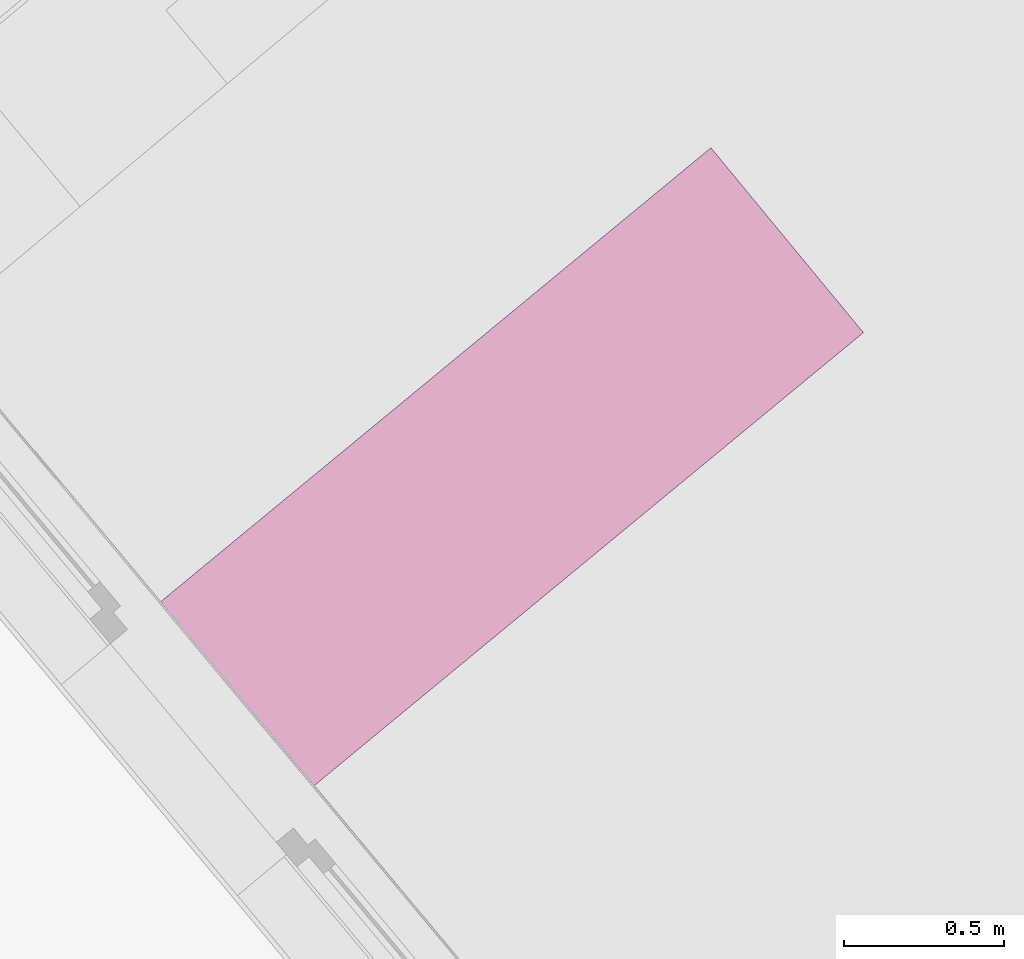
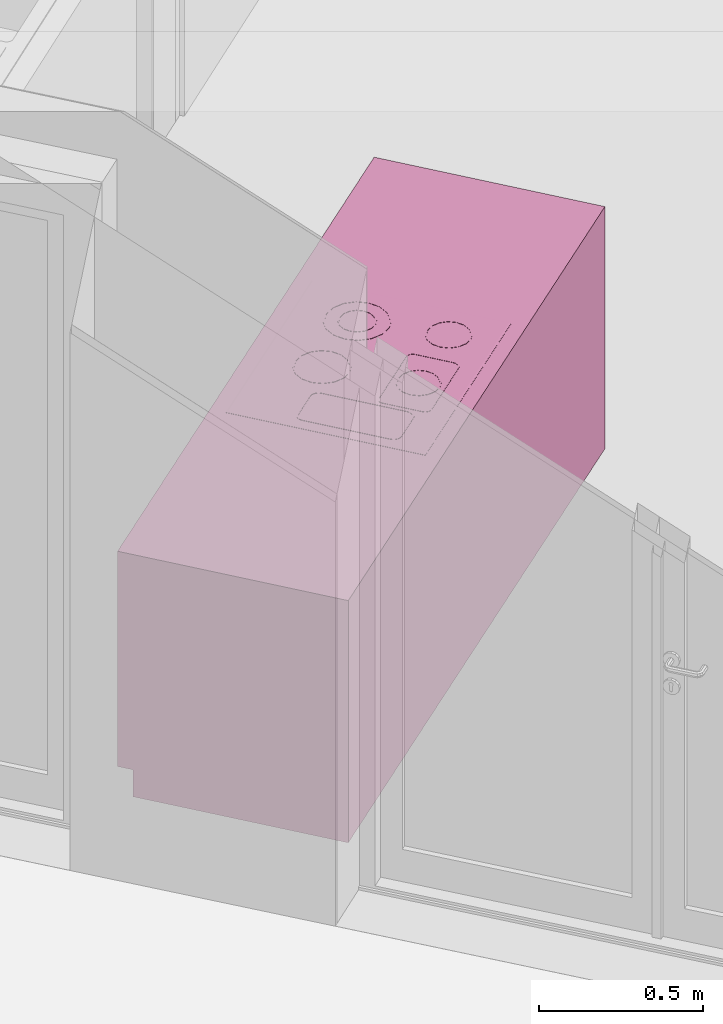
# One storey, part 63 of 67: 1 furniture element.
"""IFC4 building model written with IfcOpenShell, lengths in metres."""

from ifc_helpers import new_model, entity, si_unit, converted_unit, derived_unit, direction, frame, origin_with_axes, place, context, subcontext, project, spatial, polygons, source, transform, mapped, type_object, element, save


model = new_model("IFC4")

# Units and contexts
model_context = context("Model", 3, precision=1e-05, world=origin_with_axes(), true_north=direction((0.0, 1.0)))
body_context = subcontext(model_context, "Body", "Model", "MODEL_VIEW")
ifc_project = project(units=[si_unit("LENGTHUNIT", "METRE"), si_unit("AREAUNIT", "SQUARE_METRE"), si_unit("VOLUMEUNIT", "CUBIC_METRE"), converted_unit("PLANEANGLEUNIT", "DEGREE", entity("IfcPlaneAngleMeasure", 0.0174532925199), si_unit("PLANEANGLEUNIT", "RADIAN"), dimensions=[0, 0, 0, 0, 0, 0, 0]), converted_unit("TIMEUNIT", "Year", entity("IfcTimeMeasure", 31556926.0), si_unit("TIMEUNIT", "SECOND"), dimensions=[0, 0, 1, 0, 0, 0, 0]), si_unit("MASSUNIT", "GRAM", prefix="KILO"), si_unit("THERMODYNAMICTEMPERATUREUNIT", "DEGREE_CELSIUS"), si_unit("LUMINOUSINTENSITYUNIT", "LUMEN"), si_unit("ENERGYUNIT", "JOULE", prefix="MEGA"), derived_unit("THERMALCONDUCTANCEUNIT", [(si_unit("POWERUNIT", "WATT"), 1), (si_unit("LENGTHUNIT", "METRE"), -1), (si_unit("THERMODYNAMICTEMPERATUREUNIT", "KELVIN"), -1)]), derived_unit("SPECIFICHEATCAPACITYUNIT", [(si_unit("ENERGYUNIT", "JOULE"), 1), (si_unit("MASSUNIT", "GRAM", prefix="KILO"), -1), (si_unit("THERMODYNAMICTEMPERATUREUNIT", "KELVIN"), -1)]), derived_unit("MASSDENSITYUNIT", [(si_unit("MASSUNIT", "GRAM", prefix="KILO"), 1), (si_unit("VOLUMEUNIT", "CUBIC_METRE"), -1)])], contexts=[model_context])

# Site, building, storey
site_placement = place(None, frame((-0.00153261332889, -0.00661245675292, 0.0), z_axis=(0.0, 0.0, 1.0), x_axis=(1.0, 0.0, 0.0)))
site = spatial("IfcSite", under=ifc_project, at=site_placement, Name="Site", CompositionType="ELEMENT")
building_placement = place(site_placement, origin_with_axes())
building = spatial("IfcBuilding", under=site, at=building_placement, Name="Building", CompositionType="ELEMENT")
storey_placement = place(building_placement, frame((0.0, 0.0, -0.22), z_axis=(0.0, 0.0, 1.0), x_axis=(1.0, 0.0, 0.0)))
storey = spatial("IfcBuildingStorey", under=building, at=storey_placement, Name="EG", CompositionType="ELEMENT", Elevation=-0.22)

# Furniture
furniture_type = type_object("IfcFurnitureType", Name="Konzeptküche 26", AssemblyPlace="NOTDEFINED", PredefinedType="NOTDEFINED")
shared_shape = source(origin_with_axes(), body_context, "Body", "Tessellation", [
    polygons([(0.451386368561, 0.0111886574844, 0.0), (2.6840690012, -0.00300580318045, 0.0), (2.6840690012, -0.00300580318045, 0.1), (0.451386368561, 0.0111886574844, 0.1), (0.455836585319, 0.711174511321, 0.0), (2.68851921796, 0.696980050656, 0.0), (2.68851921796, 0.696980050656, 0.1), (0.455836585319, 0.711174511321, 0.1)], [[[1, 2, 3, 4]], [[1, 5, 6, 2]], [[2, 6, 7, 3]], [[4, 3, 7, 8]], [[5, 1, 4, 8]], [[6, 5, 8, 7]]], closed=True),
    polygons([(0.451386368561, 0.0111886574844, 0.85), (2.6840690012, -0.00300580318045, 0.85), (2.6840690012, -0.00300580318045, 0.9), (0.451386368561, 0.0111886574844, 0.9), (0.456154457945, 0.76117350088, 0.85), (2.68883709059, 0.746979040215, 0.85), (2.68883709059, 0.746979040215, 0.9), (0.456154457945, 0.76117350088, 0.9)], [[[1, 2, 3, 4]], [[1, 5, 6, 2]], [[2, 6, 7, 3]], [[4, 3, 7, 8]], [[5, 1, 4, 8]], [[6, 5, 8, 7]]], closed=True),
    polygons([(0.451386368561, 0.0111886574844, 0.1), (2.6840690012, -0.00300580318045, 0.1), (2.6840690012, -0.00300580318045, 0.85), (0.451386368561, 0.0111886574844, 0.85), (0.456154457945, 0.76117350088, 0.1), (2.68883709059, 0.746979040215, 0.1), (2.68883709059, 0.746979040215, 0.85), (0.456154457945, 0.76117350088, 0.85)], [[[1, 2, 3, 4]], [[1, 5, 6, 2]], [[2, 6, 7, 3]], [[4, 3, 7, 8]], [[5, 1, 4, 8]], [[6, 5, 8, 7]]], closed=True),
    polygons([(2.01007115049, 0.701293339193, 0.9), (2.00593880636, 0.0513064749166, 0.9), (1.25595396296, 0.0560745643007, 0.9), (1.26008630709, 0.706061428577, 0.9), (2.01007115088, 0.70129333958, 0.9008), (2.00593880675, 0.0513064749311, 0.9008), (1.25595396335, 0.0560745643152, 0.9008), (1.26008630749, 0.706061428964, 0.9008), (2.00322248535, 0.694531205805, 0.901999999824), (1.99917667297, 0.0581551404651, 0.901999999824), (1.26280262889, 0.0628366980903, 0.901999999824), (1.26684844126, 0.69921276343, 0.901999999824)], [[[1, 2, 3, 4]], [[2, 1, 5, 6]], [[3, 2, 6, 7]], [[4, 3, 7, 8]], [[1, 4, 8, 5]], [[6, 5, 9, 10]], [[7, 6, 10, 11]], [[8, 7, 11, 12]], [[5, 8, 12, 9]], [[11, 10, 9, 12]]], closed=True),
    polygons([(1.95268579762, 0.208298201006, 0.902), (1.94734355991, 0.236077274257, 0.902), (1.94734355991, 0.236077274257, 0.903), (1.95268579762, 0.208298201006, 0.903), (1.9469907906, 0.180589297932, 0.902), (1.93112555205, 0.157168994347, 0.902), (1.9075054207, 0.141602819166, 0.902), (1.87972634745, 0.136260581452, 0.902), (1.85201744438, 0.141955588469, 0.902), (1.82859714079, 0.157820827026, 0.902), (1.81303096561, 0.181440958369, 0.902), (1.8076887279, 0.20922003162, 0.902), (1.81338373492, 0.236928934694, 0.902), (1.82924897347, 0.260349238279, 0.902), (1.85286910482, 0.275915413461, 0.902), (1.88064817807, 0.281257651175, 0.902), (1.90835708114, 0.275562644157, 0.902), (1.93177738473, 0.259697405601, 0.902), (1.94768589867, 0.208329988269, 0.902), (1.94271209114, 0.234193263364, 0.902), (1.92821944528, 0.256184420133, 0.902), (1.90641433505, 0.270955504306, 0.902), (1.8806163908, 0.276257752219, 0.902), (1.85475311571, 0.271283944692, 0.902), (1.83276195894, 0.256791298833, 0.902), (1.81799087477, 0.234986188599, 0.902), (1.81268862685, 0.209188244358, 0.902), (1.81766243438, 0.183324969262, 0.902), (1.83215508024, 0.161333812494, 0.902), (1.85396019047, 0.146562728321, 0.902), (1.87975813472, 0.141260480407, 0.902), (1.90562140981, 0.146234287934, 0.902), (1.92761256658, 0.160726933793, 0.902), (1.94238365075, 0.182532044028, 0.902), (1.93177738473, 0.259697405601, 0.903), (1.90835708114, 0.275562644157, 0.903), (1.88064817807, 0.281257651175, 0.903), (1.85286910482, 0.275915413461, 0.903), (1.82924897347, 0.260349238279, 0.903), (1.81338373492, 0.236928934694, 0.903), (1.8076887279, 0.20922003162, 0.903), (1.81303096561, 0.181440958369, 0.903), (1.82859714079, 0.157820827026, 0.903), (1.85201744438, 0.141955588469, 0.903), (1.87972634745, 0.136260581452, 0.903), (1.9075054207, 0.141602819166, 0.903), (1.93112555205, 0.157168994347, 0.903), (1.9469907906, 0.180589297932, 0.903), (1.94768589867, 0.208329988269, 0.903), (1.94238365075, 0.182532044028, 0.903), (1.92761256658, 0.160726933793, 0.903), (1.90562140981, 0.146234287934, 0.903), (1.87975813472, 0.141260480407, 0.903), (1.85396019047, 0.146562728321, 0.903), (1.83215508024, 0.161333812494, 0.903), (1.81766243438, 0.183324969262, 0.903), (1.81268862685, 0.209188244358, 0.903), (1.81799087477, 0.234986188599, 0.903), (1.83276195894, 0.256791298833, 0.903), (1.85475311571, 0.271283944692, 0.903), (1.8806163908, 0.276257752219, 0.903), (1.90641433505, 0.270955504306, 0.903), (1.92821944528, 0.256184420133, 0.903), (1.94271209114, 0.234193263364, 0.903)], [[[1, 2, 3, 4]], [[1, 5, 6, 7, 8, 9, 10, 11, 12, 13, 14, 15, 16, 17, 18, 2], [19, 20, 21, 22, 23, 24, 25, 26, 27, 28, 29, 30, 31, 32, 33, 34]], [[2, 18, 35, 3]], [[4, 3, 35, 36, 37, 38, 39, 40, 41, 42, 43, 44, 45, 46, 47, 48], [49, 50, 51, 52, 53, 54, 55, 56, 57, 58, 59, 60, 61, 62, 63, 64]], [[5, 1, 4, 48]], [[6, 5, 48, 47]], [[7, 6, 47, 46]], [[8, 7, 46, 45]], [[9, 8, 45, 44]], [[10, 9, 44, 43]], [[11, 10, 43, 42]], [[12, 11, 42, 41]], [[13, 12, 41, 40]], [[14, 13, 40, 39]], [[15, 14, 39, 38]], [[16, 15, 38, 37]], [[17, 16, 37, 36]], [[18, 17, 36, 35]], [[20, 19, 49, 64]], [[21, 20, 64, 63]], [[22, 21, 63, 62]], [[23, 22, 62, 61]], [[24, 23, 61, 60]], [[25, 24, 60, 59]], [[26, 25, 59, 58]], [[27, 26, 58, 57]], [[28, 27, 57, 56]], [[29, 28, 56, 55]], [[30, 29, 55, 54]], [[31, 30, 54, 53]], [[32, 31, 53, 52]], [[33, 32, 52, 51]], [[34, 33, 51, 50]], [[19, 34, 50, 49]]], closed=True),
    polygons([(1.9127590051, 0.495207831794, 0.902), (1.90833784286, 0.518197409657, 0.902), (1.90833784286, 0.518197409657, 0.903), (1.9127590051, 0.495207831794, 0.903), (1.90804589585, 0.472276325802, 0.902), (1.89491604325, 0.452894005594, 0.902), (1.87536834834, 0.44001165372, 0.902), (1.85237877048, 0.435590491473, 0.902), (1.82944726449, 0.440303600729, 0.902), (1.81006494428, 0.453433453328, 0.902), (1.7971825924, 0.472981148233, 0.902), (1.79276143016, 0.495970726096, 0.902), (1.79747453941, 0.518902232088, 0.902), (1.81060439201, 0.538284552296, 0.902), (1.83015208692, 0.551166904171, 0.902), (1.85314166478, 0.555588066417, 0.902), (1.87607317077, 0.550874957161, 0.902), (1.89545549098, 0.537745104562, 0.902), (1.90775910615, 0.495239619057, 0.902), (1.90370637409, 0.516313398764, 0.902), (1.89189755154, 0.534232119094, 0.902), (1.87413042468, 0.546267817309, 0.902), (1.85310987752, 0.550588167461, 0.902), (1.83203609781, 0.546535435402, 0.902), (1.81411737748, 0.53472661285, 0.902), (1.80208167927, 0.516959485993, 0.902), (1.79776132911, 0.495938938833, 0.902), (1.80181406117, 0.474865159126, 0.902), (1.81362288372, 0.456946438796, 0.902), (1.83139001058, 0.444910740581, 0.902), (1.85241055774, 0.440590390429, 0.902), (1.87348433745, 0.444643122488, 0.902), (1.89140305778, 0.45645194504, 0.902), (1.90343875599, 0.474219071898, 0.902), (1.89545549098, 0.537745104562, 0.903), (1.87607317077, 0.550874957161, 0.903), (1.85314166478, 0.555588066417, 0.903), (1.83015208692, 0.551166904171, 0.903), (1.81060439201, 0.538284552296, 0.903), (1.79747453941, 0.518902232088, 0.903), (1.79276143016, 0.495970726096, 0.903), (1.7971825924, 0.472981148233, 0.903), (1.81006494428, 0.453433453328, 0.903), (1.82944726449, 0.440303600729, 0.903), (1.85237877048, 0.435590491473, 0.903), (1.87536834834, 0.44001165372, 0.903), (1.89491604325, 0.452894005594, 0.903), (1.90804589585, 0.472276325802, 0.903), (1.90775910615, 0.495239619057, 0.903), (1.90343875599, 0.474219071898, 0.903), (1.89140305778, 0.45645194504, 0.903), (1.87348433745, 0.444643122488, 0.903), (1.85241055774, 0.440590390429, 0.903), (1.83139001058, 0.444910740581, 0.903), (1.81362288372, 0.456946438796, 0.903), (1.80181406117, 0.474865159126, 0.903), (1.79776132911, 0.495938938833, 0.903), (1.80208167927, 0.516959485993, 0.903), (1.81411737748, 0.53472661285, 0.903), (1.83203609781, 0.546535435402, 0.903), (1.85310987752, 0.550588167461, 0.903), (1.87413042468, 0.546267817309, 0.903), (1.89189755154, 0.534232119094, 0.903), (1.90370637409, 0.516313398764, 0.903)], [[[1, 2, 3, 4]], [[1, 5, 6, 7, 8, 9, 10, 11, 12, 13, 14, 15, 16, 17, 18, 2], [19, 20, 21, 22, 23, 24, 25, 26, 27, 28, 29, 30, 31, 32, 33, 34]], [[2, 18, 35, 3]], [[4, 3, 35, 36, 37, 38, 39, 40, 41, 42, 43, 44, 45, 46, 47, 48], [49, 50, 51, 52, 53, 54, 55, 56, 57, 58, 59, 60, 61, 62, 63, 64]], [[5, 1, 4, 48]], [[6, 5, 48, 47]], [[7, 6, 47, 46]], [[8, 7, 46, 45]], [[9, 8, 45, 44]], [[10, 9, 44, 43]], [[11, 10, 43, 42]], [[12, 11, 42, 41]], [[13, 12, 41, 40]], [[14, 13, 40, 39]], [[15, 14, 39, 38]], [[16, 15, 38, 37]], [[17, 16, 37, 36]], [[18, 17, 36, 35]], [[20, 19, 49, 64]], [[21, 20, 64, 63]], [[22, 21, 63, 62]], [[23, 22, 62, 61]], [[24, 23, 61, 60]], [[25, 24, 60, 59]], [[26, 25, 59, 58]], [[27, 26, 58, 57]], [[28, 27, 57, 56]], [[29, 28, 56, 55]], [[30, 29, 55, 54]], [[31, 30, 54, 53]], [[32, 31, 53, 52]], [[33, 32, 52, 51]], [[34, 33, 51, 50]], [[19, 34, 50, 49]]], closed=True),
    polygons([(1.95775809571, 0.494921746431, 0.902), (1.95002106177, 0.535153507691, 0.902), (1.95002106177, 0.535153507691, 0.903), (1.95775809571, 0.494921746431, 0.903), (1.94951015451, 0.454791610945, 0.902), (1.92653291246, 0.420872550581, 0.902), (1.89232444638, 0.3983284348, 0.902), (1.85209268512, 0.39059140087, 0.902), (1.81196254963, 0.398839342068, 0.902), (1.77804348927, 0.421816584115, 0.902), (1.75549937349, 0.456025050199, 0.902), (1.74776233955, 0.496256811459, 0.902), (1.75601028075, 0.536386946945, 0.902), (1.7789875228, 0.57030600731, 0.902), (1.81319598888, 0.59285012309, 0.902), (1.85342775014, 0.60058715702, 0.902), (1.89355788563, 0.592339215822, 0.902), (1.92747694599, 0.569361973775, 0.902), (1.95275819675, 0.494953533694, 0.902), (1.94538959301, 0.533269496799, 0.902), (1.92391900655, 0.565848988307, 0.902), (1.89161513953, 0.587732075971, 0.902), (1.85339596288, 0.595587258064, 0.902), (1.81507999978, 0.588218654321, 0.902), (1.78250050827, 0.566748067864, 0.902), (1.7606174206, 0.53444420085, 0.902), (1.75276223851, 0.496225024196, 0.902), (1.76013084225, 0.457909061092, 0.902), (1.78160142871, 0.425329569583, 0.902), (1.81390529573, 0.403446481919, 0.902), (1.85212447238, 0.395591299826, 0.902), (1.89044043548, 0.402959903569, 0.902), (1.92301992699, 0.424430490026, 0.902), (1.94490301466, 0.456734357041, 0.902), (1.92747694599, 0.569361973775, 0.903), (1.89355788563, 0.592339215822, 0.903), (1.85342775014, 0.60058715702, 0.903), (1.81319598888, 0.59285012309, 0.903), (1.7789875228, 0.57030600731, 0.903), (1.75601028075, 0.536386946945, 0.903), (1.74776233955, 0.496256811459, 0.903), (1.75549937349, 0.456025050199, 0.903), (1.77804348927, 0.421816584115, 0.903), (1.81196254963, 0.398839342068, 0.903), (1.85209268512, 0.39059140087, 0.903), (1.89232444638, 0.3983284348, 0.903), (1.92653291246, 0.420872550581, 0.903), (1.94951015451, 0.454791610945, 0.903), (1.95275819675, 0.494953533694, 0.903), (1.94490301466, 0.456734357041, 0.903), (1.92301992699, 0.424430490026, 0.903), (1.89044043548, 0.402959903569, 0.903), (1.85212447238, 0.395591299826, 0.903), (1.81390529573, 0.403446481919, 0.903), (1.78160142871, 0.425329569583, 0.903), (1.76013084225, 0.457909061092, 0.903), (1.75276223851, 0.496225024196, 0.903), (1.7606174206, 0.53444420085, 0.903), (1.78250050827, 0.566748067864, 0.903), (1.81507999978, 0.588218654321, 0.903), (1.85339596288, 0.595587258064, 0.903), (1.89161513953, 0.587732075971, 0.903), (1.92391900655, 0.565848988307, 0.903), (1.94538959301, 0.533269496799, 0.903)], [[[1, 2, 3, 4]], [[1, 5, 6, 7, 8, 9, 10, 11, 12, 13, 14, 15, 16, 17, 18, 2], [19, 20, 21, 22, 23, 24, 25, 26, 27, 28, 29, 30, 31, 32, 33, 34]], [[2, 18, 35, 3]], [[4, 3, 35, 36, 37, 38, 39, 40, 41, 42, 43, 44, 45, 46, 47, 48], [49, 50, 51, 52, 53, 54, 55, 56, 57, 58, 59, 60, 61, 62, 63, 64]], [[5, 1, 4, 48]], [[6, 5, 48, 47]], [[7, 6, 47, 46]], [[8, 7, 46, 45]], [[9, 8, 45, 44]], [[10, 9, 44, 43]], [[11, 10, 43, 42]], [[12, 11, 42, 41]], [[13, 12, 41, 40]], [[14, 13, 40, 39]], [[15, 14, 39, 38]], [[16, 15, 38, 37]], [[17, 16, 37, 36]], [[18, 17, 36, 35]], [[20, 19, 49, 64]], [[21, 20, 64, 63]], [[22, 21, 63, 62]], [[23, 22, 62, 61]], [[24, 23, 61, 60]], [[25, 24, 60, 59]], [[26, 25, 59, 58]], [[27, 26, 58, 57]], [[28, 27, 57, 56]], [[29, 28, 56, 55]], [[30, 29, 55, 54]], [[31, 30, 54, 53]], [[32, 31, 53, 52]], [[33, 32, 52, 51]], [[34, 33, 51, 50]], [[19, 34, 50, 49]]], closed=True),
    polygons([(1.67867067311, 0.206790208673, 0.902), (1.67351265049, 0.233611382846, 0.902), (1.67351265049, 0.233611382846, 0.903), (1.67867067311, 0.206790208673, 0.903), (1.67317204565, 0.180036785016, 0.902), (1.65785388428, 0.157424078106, 0.902), (1.63504824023, 0.142394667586, 0.902), (1.60822706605, 0.137236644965, 0.902), (1.5814736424, 0.142735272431, 0.902), (1.55886093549, 0.158053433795, 0.902), (1.54383152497, 0.180859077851, 0.902), (1.53867350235, 0.207680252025, 0.902), (1.54417212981, 0.234433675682, 0.902), (1.55949029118, 0.257046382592, 0.902), (1.58229593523, 0.272075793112, 0.902), (1.60911710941, 0.277233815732, 0.902), (1.63587053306, 0.271735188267, 0.902), (1.65848323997, 0.256417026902, 0.902), (1.67367077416, 0.206821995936, 0.902), (1.66888118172, 0.231727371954, 0.902), (1.65492530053, 0.252904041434, 0.902), (1.63392778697, 0.267128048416, 0.902), (1.60908532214, 0.272233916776, 0.902), (1.58417994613, 0.267444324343, 0.902), (1.56300327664, 0.253488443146, 0.902), (1.54877926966, 0.232490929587, 0.902), (1.5436734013, 0.207648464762, 0.902), (1.54846299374, 0.182743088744, 0.902), (1.56241887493, 0.161566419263, 0.902), (1.58341638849, 0.147342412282, 0.902), (1.60825885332, 0.142236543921, 0.902), (1.63316422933, 0.147026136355, 0.902), (1.65434089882, 0.160982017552, 0.902), (1.6685649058, 0.181979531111, 0.902), (1.65848323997, 0.256417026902, 0.903), (1.63587053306, 0.271735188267, 0.903), (1.60911710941, 0.277233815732, 0.903), (1.58229593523, 0.272075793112, 0.903), (1.55949029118, 0.257046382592, 0.903), (1.54417212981, 0.234433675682, 0.903), (1.53867350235, 0.207680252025, 0.903), (1.54383152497, 0.180859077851, 0.903), (1.55886093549, 0.158053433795, 0.903), (1.5814736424, 0.142735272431, 0.903), (1.60822706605, 0.137236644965, 0.903), (1.63504824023, 0.142394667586, 0.903), (1.65785388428, 0.157424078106, 0.903), (1.67317204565, 0.180036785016, 0.903), (1.67367077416, 0.206821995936, 0.903), (1.6685649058, 0.181979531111, 0.903), (1.65434089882, 0.160982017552, 0.903), (1.63316422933, 0.147026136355, 0.903), (1.60825885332, 0.142236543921, 0.903), (1.58341638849, 0.147342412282, 0.903), (1.56241887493, 0.161566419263, 0.903), (1.54846299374, 0.182743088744, 0.903), (1.5436734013, 0.207648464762, 0.903), (1.54877926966, 0.232490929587, 0.903), (1.56300327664, 0.253488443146, 0.903), (1.58417994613, 0.267444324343, 0.903), (1.60908532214, 0.272233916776, 0.903), (1.63392778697, 0.267128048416, 0.903), (1.65492530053, 0.252904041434, 0.903), (1.66888118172, 0.231727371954, 0.903)], [[[1, 2, 3, 4]], [[1, 5, 6, 7, 8, 9, 10, 11, 12, 13, 14, 15, 16, 17, 18, 2], [19, 20, 21, 22, 23, 24, 25, 26, 27, 28, 29, 30, 31, 32, 33, 34]], [[2, 18, 35, 3]], [[4, 3, 35, 36, 37, 38, 39, 40, 41, 42, 43, 44, 45, 46, 47, 48], [49, 50, 51, 52, 53, 54, 55, 56, 57, 58, 59, 60, 61, 62, 63, 64]], [[5, 1, 4, 48]], [[6, 5, 48, 47]], [[7, 6, 47, 46]], [[8, 7, 46, 45]], [[9, 8, 45, 44]], [[10, 9, 44, 43]], [[11, 10, 43, 42]], [[12, 11, 42, 41]], [[13, 12, 41, 40]], [[14, 13, 40, 39]], [[15, 14, 39, 38]], [[16, 15, 38, 37]], [[17, 16, 37, 36]], [[18, 17, 36, 35]], [[20, 19, 49, 64]], [[21, 20, 64, 63]], [[22, 21, 63, 62]], [[23, 22, 62, 61]], [[24, 23, 61, 60]], [[25, 24, 60, 59]], [[26, 25, 59, 58]], [[27, 26, 58, 57]], [[28, 27, 57, 56]], [[29, 28, 56, 55]], [[30, 29, 55, 54]], [[31, 30, 54, 53]], [[32, 31, 53, 52]], [[33, 32, 52, 51]], [[34, 33, 51, 50]], [[19, 34, 50, 49]]], closed=True),
    polygons([(1.67698381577, 0.511657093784, 0.902), (1.6703520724, 0.546141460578, 0.902), (1.6703520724, 0.546141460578, 0.903), (1.67698381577, 0.511657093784, 0.903), (1.66991415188, 0.477259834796, 0.902), (1.65021937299, 0.448186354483, 0.902), (1.62089783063, 0.428862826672, 0.902), (1.58641346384, 0.422231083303, 0.902), (1.55201620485, 0.429300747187, 0.902), (1.52294272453, 0.448995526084, 0.902), (1.50361919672, 0.478317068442, 0.902), (1.49698745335, 0.512801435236, 0.902), (1.50405711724, 0.547198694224, 0.902), (1.52375189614, 0.576272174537, 0.902), (1.55307343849, 0.595595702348, 0.902), (1.58755780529, 0.602227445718, 0.902), (1.62195506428, 0.595157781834, 0.902), (1.65102854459, 0.575463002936, 0.902), (1.67198391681, 0.511688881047, 0.902), (1.66572060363, 0.544257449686, 0.902), (1.64747060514, 0.571950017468, 0.902), (1.62001231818, 0.590550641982, 0.902), (1.58752601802, 0.597227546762, 0.902), (1.55495744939, 0.590964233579, 0.902), (1.5272648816, 0.572714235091, 0.902), (1.50866425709, 0.545255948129, 0.902), (1.50198735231, 0.512769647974, 0.902), (1.50825066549, 0.480201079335, 0.902), (1.52650066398, 0.452508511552, 0.902), (1.55395895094, 0.433907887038, 0.902), (1.5864452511, 0.427230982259, 0.902), (1.61901381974, 0.433494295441, 0.902), (1.64670638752, 0.451744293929, 0.902), (1.66530701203, 0.479202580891, 0.902), (1.65102854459, 0.575463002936, 0.903), (1.62195506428, 0.595157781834, 0.903), (1.58755780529, 0.602227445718, 0.903), (1.55307343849, 0.595595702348, 0.903), (1.52375189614, 0.576272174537, 0.903), (1.50405711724, 0.547198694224, 0.903), (1.49698745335, 0.512801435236, 0.903), (1.50361919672, 0.478317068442, 0.903), (1.52294272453, 0.448995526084, 0.903), (1.55201620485, 0.429300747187, 0.903), (1.58641346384, 0.422231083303, 0.903), (1.62089783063, 0.428862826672, 0.903), (1.65021937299, 0.448186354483, 0.903), (1.66991415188, 0.477259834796, 0.903), (1.67198391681, 0.511688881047, 0.903), (1.66530701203, 0.479202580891, 0.903), (1.64670638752, 0.451744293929, 0.903), (1.61901381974, 0.433494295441, 0.903), (1.5864452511, 0.427230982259, 0.903), (1.55395895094, 0.433907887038, 0.903), (1.52650066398, 0.452508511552, 0.903), (1.50825066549, 0.480201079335, 0.903), (1.50198735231, 0.512769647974, 0.903), (1.50866425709, 0.545255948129, 0.903), (1.5272648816, 0.572714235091, 0.903), (1.55495744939, 0.590964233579, 0.903), (1.58752601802, 0.597227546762, 0.903), (1.62001231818, 0.590550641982, 0.903), (1.64747060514, 0.571950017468, 0.903), (1.66572060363, 0.544257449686, 0.903)], [[[1, 2, 3, 4]], [[1, 5, 6, 7, 8, 9, 10, 11, 12, 13, 14, 15, 16, 17, 18, 2], [19, 20, 21, 22, 23, 24, 25, 26, 27, 28, 29, 30, 31, 32, 33, 34]], [[2, 18, 35, 3]], [[4, 3, 35, 36, 37, 38, 39, 40, 41, 42, 43, 44, 45, 46, 47, 48], [49, 50, 51, 52, 53, 54, 55, 56, 57, 58, 59, 60, 61, 62, 63, 64]], [[5, 1, 4, 48]], [[6, 5, 48, 47]], [[7, 6, 47, 46]], [[8, 7, 46, 45]], [[9, 8, 45, 44]], [[10, 9, 44, 43]], [[11, 10, 43, 42]], [[12, 11, 42, 41]], [[13, 12, 41, 40]], [[14, 13, 40, 39]], [[15, 14, 39, 38]], [[16, 15, 38, 37]], [[17, 16, 37, 36]], [[18, 17, 36, 35]], [[20, 19, 49, 64]], [[21, 20, 64, 63]], [[22, 21, 63, 62]], [[23, 22, 62, 61]], [[24, 23, 61, 60]], [[25, 24, 60, 59]], [[26, 25, 59, 58]], [[27, 26, 58, 57]], [[28, 27, 57, 56]], [[29, 28, 56, 55]], [[30, 29, 55, 54]], [[31, 30, 54, 53]], [[32, 31, 53, 52]], [[33, 32, 52, 51]], [[34, 33, 51, 50]], [[19, 34, 50, 49]]], closed=True),
    polygons([(1.72815115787, 0.294201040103, 0.902), (1.49030841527, 0.295713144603, 0.902), (1.49030841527, 0.295713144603, 0.903), (1.72815115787, 0.294201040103, 0.903), (1.73655937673, 0.292472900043, 0.902), (1.74366622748, 0.287658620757, 0.902), (1.7483897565, 0.280491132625, 0.902), (1.75001084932, 0.272061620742, 0.902), (1.74917517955, 0.140617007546, 0.902), (1.74744703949, 0.132208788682, 0.902), (1.7426327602, 0.125101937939, 0.902), (1.73546527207, 0.120378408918, 0.902), (1.72703576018, 0.118757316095, 0.902), (1.48919301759, 0.120269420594, 0.902), (1.48078479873, 0.121997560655, 0.902), (1.47367794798, 0.126811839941, 0.902), (1.46895441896, 0.133979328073, 0.902), (1.46733332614, 0.142408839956, 0.902), (1.46816899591, 0.273853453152, 0.902), (1.46989713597, 0.282261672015, 0.902), (1.47471141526, 0.289368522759, 0.902), (1.48187890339, 0.294092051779, 0.902), (1.72406760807, 0.123776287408, 0.902), (1.73173080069, 0.125250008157, 0.902), (1.738246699, 0.129544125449, 0.902), (1.74262331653, 0.136004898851, 0.902), (1.74419435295, 0.143648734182, 0.902), (1.74499187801, 0.269093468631, 0.902), (1.74351815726, 0.276756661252, 0.902), (1.73922403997, 0.283272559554, 0.902), (1.73276326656, 0.287649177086, 0.902), (1.72511943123, 0.289220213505, 0.902), (1.49327656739, 0.290694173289, 0.902), (1.48561337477, 0.28922045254, 0.902), (1.47909747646, 0.284926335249, 0.902), (1.47472085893, 0.278465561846, 0.902), (1.47314982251, 0.270821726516, 0.902), (1.47235229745, 0.145376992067, 0.902), (1.4738260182, 0.137713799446, 0.902), (1.47812013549, 0.131197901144, 0.902), (1.4845809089, 0.126821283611, 0.902), (1.49222474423, 0.125250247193, 0.902), (1.48187890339, 0.294092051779, 0.903), (1.47471141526, 0.289368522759, 0.903), (1.46989713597, 0.282261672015, 0.903), (1.46816899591, 0.273853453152, 0.903), (1.46733332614, 0.142408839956, 0.903), (1.46895441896, 0.133979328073, 0.903), (1.47367794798, 0.126811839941, 0.903), (1.48078479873, 0.121997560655, 0.903), (1.48919301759, 0.120269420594, 0.903), (1.72703576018, 0.118757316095, 0.903), (1.73546527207, 0.120378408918, 0.903), (1.7426327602, 0.125101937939, 0.903), (1.74744703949, 0.132208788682, 0.903), (1.74917517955, 0.140617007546, 0.903), (1.75001084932, 0.272061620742, 0.903), (1.7483897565, 0.280491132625, 0.903), (1.74366622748, 0.287658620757, 0.903), (1.73655937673, 0.292472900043, 0.903), (1.72406760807, 0.123776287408, 0.903), (1.49222474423, 0.125250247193, 0.903), (1.4845809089, 0.126821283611, 0.903), (1.47812013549, 0.131197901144, 0.903), (1.4738260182, 0.137713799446, 0.903), (1.47235229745, 0.145376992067, 0.903), (1.47314982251, 0.270821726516, 0.903), (1.47472085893, 0.278465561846, 0.903), (1.47909747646, 0.284926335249, 0.903), (1.48561337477, 0.28922045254, 0.903), (1.49327656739, 0.290694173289, 0.903), (1.72511943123, 0.289220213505, 0.903), (1.73276326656, 0.287649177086, 0.903), (1.73922403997, 0.283272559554, 0.903), (1.74351815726, 0.276756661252, 0.903), (1.74499187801, 0.269093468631, 0.903), (1.74419435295, 0.143648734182, 0.903), (1.74262331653, 0.136004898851, 0.903), (1.738246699, 0.129544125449, 0.903), (1.73173080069, 0.125250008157, 0.903)], [[[1, 2, 3, 4]], [[1, 5, 6, 7, 8, 9, 10, 11, 12, 13, 14, 15, 16, 17, 18, 19, 20, 21, 22, 2], [23, 24, 25, 26, 27, 28, 29, 30, 31, 32, 33, 34, 35, 36, 37, 38, 39, 40, 41, 42]], [[2, 22, 43, 3]], [[4, 3, 43, 44, 45, 46, 47, 48, 49, 50, 51, 52, 53, 54, 55, 56, 57, 58, 59, 60], [61, 62, 63, 64, 65, 66, 67, 68, 69, 70, 71, 72, 73, 74, 75, 76, 77, 78, 79, 80]], [[5, 1, 4, 60]], [[6, 5, 60, 59]], [[7, 6, 59, 58]], [[8, 7, 58, 57]], [[9, 8, 57, 56]], [[10, 9, 56, 55]], [[11, 10, 55, 54]], [[12, 11, 54, 53]], [[13, 12, 53, 52]], [[14, 13, 52, 51]], [[15, 14, 51, 50]], [[16, 15, 50, 49]], [[17, 16, 49, 48]], [[18, 17, 48, 47]], [[19, 18, 47, 46]], [[20, 19, 46, 45]], [[21, 20, 45, 44]], [[22, 21, 44, 43]], [[24, 23, 61, 80]], [[25, 24, 80, 79]], [[26, 25, 79, 78]], [[27, 26, 78, 77]], [[28, 27, 77, 76]], [[29, 28, 76, 75]], [[30, 29, 75, 74]], [[31, 30, 74, 73]], [[32, 31, 73, 72]], [[33, 32, 72, 71]], [[34, 33, 71, 70]], [[35, 34, 70, 69]], [[36, 35, 69, 68]], [[37, 36, 68, 67]], [[38, 37, 67, 66]], [[39, 38, 66, 65]], [[40, 39, 65, 64]], [[41, 40, 64, 63]], [[42, 41, 63, 62]], [[23, 42, 62, 61]]], closed=True),
    polygons([(1.45676176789, 0.182500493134, 0.902), (1.45859271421, 0.470494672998, 0.902), (1.45859271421, 0.470494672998, 0.903), (1.45676176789, 0.182500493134, 0.903), (1.45471942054, 0.172563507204, 0.902), (1.44902981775, 0.16416450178, 0.902), (1.44055914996, 0.158582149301, 0.902), (1.43059699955, 0.156666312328, 0.902), (1.3225991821, 0.157352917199, 0.902), (1.31266219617, 0.159395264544, 0.902), (1.30426319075, 0.165084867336, 0.902), (1.29868083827, 0.173555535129, 0.902), (1.2967650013, 0.183517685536, 0.902), (1.29859594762, 0.4715118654, 0.902), (1.30063829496, 0.48144885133, 0.902), (1.30632789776, 0.489847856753, 0.902), (1.31479856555, 0.495430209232, 0.902), (1.32476071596, 0.497346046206, 0.902), (1.4327585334, 0.496659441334, 0.902), (1.44269551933, 0.49461709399, 0.902), (1.45109452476, 0.488927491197, 0.902), (1.45667687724, 0.480456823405, 0.902), (1.42562888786, 0.161697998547, 0.902), (1.43559103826, 0.16361383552, 0.902), (1.44406170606, 0.169196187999, 0.902), (1.44975130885, 0.177595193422, 0.902), (1.45179365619, 0.187532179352, 0.902), (1.45356102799, 0.465526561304, 0.902), (1.45164519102, 0.475488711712, 0.902), (1.44606283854, 0.483959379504, 0.902), (1.43766383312, 0.489648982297, 0.902), (1.42772684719, 0.491691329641, 0.902), (1.32972882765, 0.492314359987, 0.902), (1.31976667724, 0.490398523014, 0.902), (1.31129600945, 0.484816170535, 0.902), (1.30560640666, 0.476417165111, 0.902), (1.30356405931, 0.466480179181, 0.902), (1.30179668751, 0.188485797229, 0.902), (1.30371252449, 0.178523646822, 0.902), (1.30929487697, 0.17005297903, 0.902), (1.31769388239, 0.164363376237, 0.902), (1.32763086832, 0.162321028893, 0.902), (1.45667687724, 0.480456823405, 0.903), (1.45109452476, 0.488927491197, 0.903), (1.44269551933, 0.49461709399, 0.903), (1.4327585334, 0.496659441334, 0.903), (1.32476071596, 0.497346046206, 0.903), (1.31479856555, 0.495430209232, 0.903), (1.30632789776, 0.489847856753, 0.903), (1.30063829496, 0.48144885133, 0.903), (1.29859594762, 0.4715118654, 0.903), (1.2967650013, 0.183517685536, 0.903), (1.29868083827, 0.173555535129, 0.903), (1.30426319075, 0.165084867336, 0.903), (1.31266219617, 0.159395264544, 0.903), (1.3225991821, 0.157352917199, 0.903), (1.43059699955, 0.156666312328, 0.903), (1.44055914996, 0.158582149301, 0.903), (1.44902981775, 0.16416450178, 0.903), (1.45471942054, 0.172563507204, 0.903), (1.42562888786, 0.161697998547, 0.903), (1.32763086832, 0.162321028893, 0.903), (1.31769388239, 0.164363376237, 0.903), (1.30929487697, 0.17005297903, 0.903), (1.30371252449, 0.178523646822, 0.903), (1.30179668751, 0.188485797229, 0.903), (1.30356405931, 0.466480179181, 0.903), (1.30560640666, 0.476417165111, 0.903), (1.31129600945, 0.484816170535, 0.903), (1.31976667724, 0.490398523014, 0.903), (1.32972882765, 0.492314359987, 0.903), (1.42772684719, 0.491691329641, 0.903), (1.43766383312, 0.489648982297, 0.903), (1.44606283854, 0.483959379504, 0.903), (1.45164519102, 0.475488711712, 0.903), (1.45356102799, 0.465526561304, 0.903), (1.45179365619, 0.187532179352, 0.903), (1.44975130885, 0.177595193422, 0.903), (1.44406170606, 0.169196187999, 0.903), (1.43559103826, 0.16361383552, 0.903)], [[[1, 2, 3, 4]], [[1, 5, 6, 7, 8, 9, 10, 11, 12, 13, 14, 15, 16, 17, 18, 19, 20, 21, 22, 2], [23, 24, 25, 26, 27, 28, 29, 30, 31, 32, 33, 34, 35, 36, 37, 38, 39, 40, 41, 42]], [[2, 22, 43, 3]], [[4, 3, 43, 44, 45, 46, 47, 48, 49, 50, 51, 52, 53, 54, 55, 56, 57, 58, 59, 60], [61, 62, 63, 64, 65, 66, 67, 68, 69, 70, 71, 72, 73, 74, 75, 76, 77, 78, 79, 80]], [[5, 1, 4, 60]], [[6, 5, 60, 59]], [[7, 6, 59, 58]], [[8, 7, 58, 57]], [[9, 8, 57, 56]], [[10, 9, 56, 55]], [[11, 10, 55, 54]], [[12, 11, 54, 53]], [[13, 12, 53, 52]], [[14, 13, 52, 51]], [[15, 14, 51, 50]], [[16, 15, 50, 49]], [[17, 16, 49, 48]], [[18, 17, 48, 47]], [[19, 18, 47, 46]], [[20, 19, 46, 45]], [[21, 20, 45, 44]], [[22, 21, 44, 43]], [[24, 23, 61, 80]], [[25, 24, 80, 79]], [[26, 25, 79, 78]], [[27, 26, 78, 77]], [[28, 27, 77, 76]], [[29, 28, 76, 75]], [[30, 29, 75, 74]], [[31, 30, 74, 73]], [[32, 31, 73, 72]], [[33, 32, 72, 71]], [[34, 33, 71, 70]], [[35, 34, 70, 69]], [[36, 35, 69, 68]], [[37, 36, 68, 67]], [[38, 37, 67, 66]], [[39, 38, 66, 65]], [[40, 39, 65, 64]], [[41, 40, 64, 63]], [[42, 41, 63, 62]], [[23, 42, 62, 61]]], closed=True),
])
furniture_placement = place(storey_placement, frame((-3.65370290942, 12.9430568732, 0.22), z_axis=(0.0, 0.0, 1.0), x_axis=(0.767365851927, 0.641209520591, 0.0)))
element("IfcFurniture", 1, at=furniture_placement, inside=storey, type_object=furniture_type, Name="Objekt-0002", PredefinedType="NOTDEFINED", context=body_context, shape_type="MappedRepresentation", body=[
    mapped(shared_shape, transform((0.0, 0.0, 0.0))),
])

save(model, "model.ifc")
